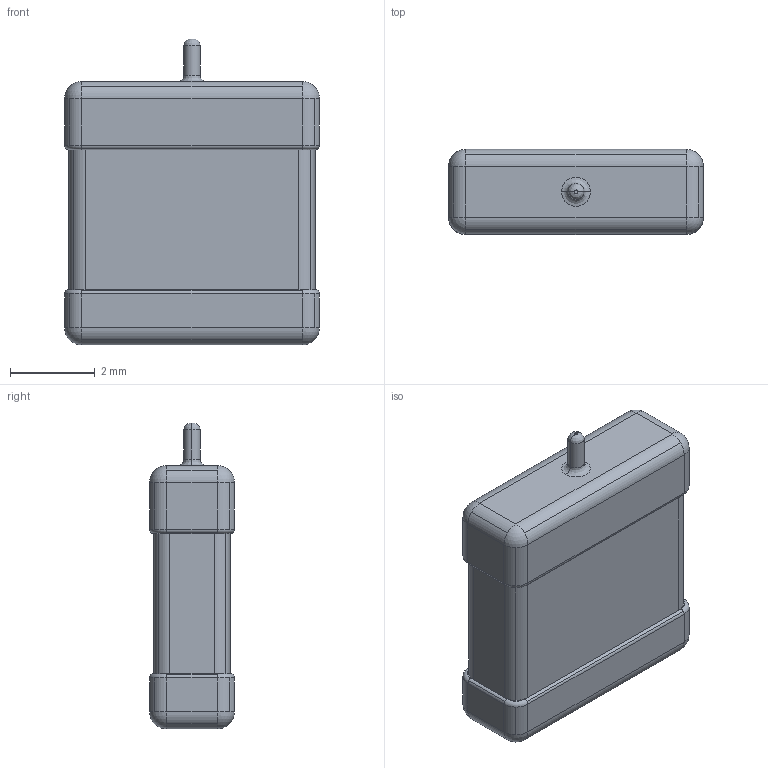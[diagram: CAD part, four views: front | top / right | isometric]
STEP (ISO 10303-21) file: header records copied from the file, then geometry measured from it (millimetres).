
FILE_DESCRIPTION((''),'2;1');
FILE_NAME('591D_R-case_20H.stp','2019-05-13T13:33:37',(''),(''),'AutoCAD STEP 2000i','AutoCAD 2000i',', , ');
FILE_SCHEMA(('CONFIG_CONTROL_DESIGN'));
Length unit declared in the file: millimetre
Products named in the file (2): 591D_R-CASE_20H; MODEL
Assembly tree (1 placements, depth 2):
  591D_R-CASE_20H
    MODEL
Bounding box: 6 x 2 x 7.2 mm (x, y, z)
Volume: 67.5 mm3; surface area: 113.5 mm2
Topology: 1 solids, 1 shells, 101 faces, 242 edges, 136 vertices
Faces by surface type: cylinder 58, plane 23, torus 8, sphere 8, bspline 4
Entity records: 3129 total; most frequent: CARTESIAN_POINT 649, DIRECTION 564, ORIENTED_EDGE 468, EDGE_CURVE 234, AXIS2_PLACEMENT_3D 231, VERTEX_POINT 136, CIRCLE 132, VECTOR 102
